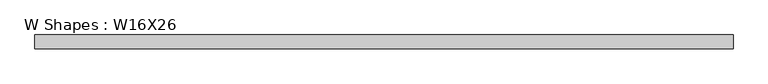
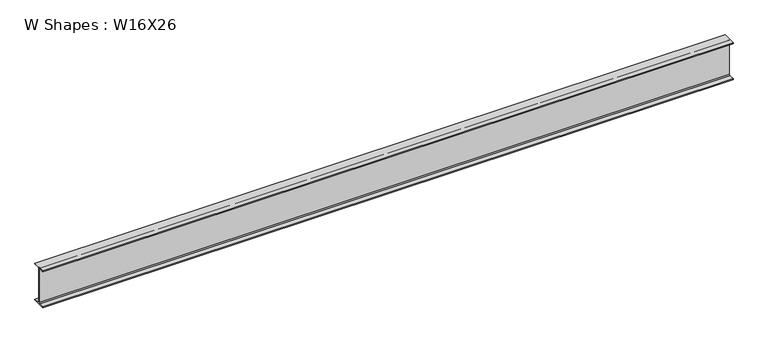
"""IFC4 building model written with IfcOpenShell, lengths in millimetres: beam geometry, W Shapes : W16X26."""

import ifcopenshell
import ifcopenshell.guid

model = None  # the IFC model being written
_history = None  # IfcOwnerHistory: only IFC2X3 demands one
_inside = {}  # id of a spatial element -> (the spatial element, [elements in it])
_under = {}  # id of a project, library or spatial element -> (it, [spatial elements below it])
_declared = {}  # id of a project -> (the project, [libraries it declares])
_typed = {}  # id of a type object -> (the type object, [elements of that type])
_made_of = {}  # id of a material, layer set ... -> (it, [elements and type objects made of it])


def new_model(schema):
    """Start an empty IFC model of exactly this schema.

    Asked for "IFC4X3", IfcOpenShell would pick the latest addendum, in which some entities
    have other attributes; the version numbers below select the first issue.
    IFC2X3 requires an IfcOwnerHistory on every rooted entity: one is made here for all.
    """
    global model, _history
    if schema == "IFC4X3":
        model = ifcopenshell.file(schema_version=(4, 3, 0, 0))
    else:
        model = ifcopenshell.file(schema=schema)
    _inside.clear()
    _under.clear()
    _declared.clear()
    _typed.clear()
    _made_of.clear()
    _history = None
    if model.schema == "IFC2X3":
        org = make("IfcOrganization", Name="unknown")
        user = make(
            "IfcPersonAndOrganization",
            ThePerson=make("IfcPerson", FamilyName="unknown"),
            TheOrganization=org,
        )
        app = make(
            "IfcApplication",
            ApplicationDeveloper=org,
            Version="unknown",
            ApplicationFullName="unknown",
            ApplicationIdentifier="unknown",
        )
        _history = make(
            "IfcOwnerHistory",
            OwningUser=user,
            OwningApplication=app,
            ChangeAction="ADDED",
            CreationDate=0,
        )
    return model


def make(cls, **values):
    """One entity of the class cls with the attributes given. An attribute that is None is left unset."""
    return model.create_entity(
        cls, **{name: value for name, value in values.items() if value is not None}
    )


def rooted(cls, **values):
    """An entity with a GlobalId (a new one), such as an element, a storey or a relation."""
    return make(cls, GlobalId=ifcopenshell.guid.new(), OwnerHistory=_history, **values)


def si_unit(unit_type, name, prefix=None):
    """IfcSIUnit, for example si_unit("LENGTHUNIT", "METRE", prefix="MILLI")."""
    return make("IfcSIUnit", UnitType=unit_type, Prefix=prefix, Name=name)


def assignment(units):
    """IfcUnitAssignment: the units of a project."""
    return None if units is None else make("IfcUnitAssignment", Units=units)


def point(xyz):
    """IfcCartesianPoint."""
    return None if xyz is None else make("IfcCartesianPoint", Coordinates=xyz)


def direction(xyz):
    """IfcDirection."""
    return None if xyz is None else make("IfcDirection", DirectionRatios=xyz)


def frame(location, z_axis=None, x_axis=None):
    """IfcAxis2Placement3D, a coordinate frame: its origin and axes. An axis left out is left unset."""
    return make(
        "IfcAxis2Placement3D",
        Location=point(location),
        Axis=direction(z_axis),
        RefDirection=direction(x_axis),
    )


def frame_2d(location, x_axis=None):
    """IfcAxis2Placement2D, a coordinate frame in the plane: its origin and x axis."""
    return make(
        "IfcAxis2Placement2D", Location=point(location), RefDirection=direction(x_axis)
    )


def origin():
    """The frame at (0, 0, 0) with its axes left unset."""
    return frame((0.0, 0.0, 0.0))


def place(relative_to, where):
    """IfcLocalPlacement: puts the frame where relative to a parent placement (None: the world)."""
    return make(
        "IfcLocalPlacement", PlacementRelTo=relative_to, RelativePlacement=where
    )


def context(
    kind, dimensions, precision=None, world=None, true_north=None, identifier=None
):
    """IfcGeometricRepresentationContext, for example the 3D "Model" context."""
    return make(
        "IfcGeometricRepresentationContext",
        ContextIdentifier=identifier,
        ContextType=kind,
        CoordinateSpaceDimension=dimensions,
        Precision=precision,
        WorldCoordinateSystem=world,
        TrueNorth=true_north,
    )


def project(units=None, contexts=None):
    """IfcProject with its units and contexts."""
    return rooted(
        "IfcProject",
        Name="project",
        RepresentationContexts=contexts,
        UnitsInContext=assignment(units),
    )


def spatial(cls, under=None, at=None, **own):
    """A site, building, storey or space (cls), placed at a placement, below another one or the project."""
    s = rooted(cls, ObjectPlacement=at, **own)
    if under is not None:
        _under.setdefault(under.id(), (under, []))[1].append(s)
    return s


def polyline(points):
    """IfcPolyline through the points."""
    return make("IfcPolyline", Points=[point(p) for p in points])


def circle_curve(where, radius):
    """IfcCircle in the frame where."""
    return make("IfcCircle", Position=where, Radius=radius)


def trimmed(basis, trim1, trim2, sense, master):
    """IfcTrimmedCurve: the piece of a basis curve between two trims."""
    return make(
        "IfcTrimmedCurve",
        BasisCurve=basis,
        Trim1=trim1,
        Trim2=trim2,
        SenseAgreement=sense,
        MasterRepresentation=master,
    )


def segment(curve, same_sense, transition):
    """IfcCompositeCurveSegment."""
    return make(
        "IfcCompositeCurveSegment",
        Transition=transition,
        SameSense=same_sense,
        ParentCurve=curve,
    )


def composite_curve(segments, self_intersect=None):
    """IfcCompositeCurve: segments joined end to end."""
    return make("IfcCompositeCurve", Segments=segments, SelfIntersect=self_intersect)


def outline(outer, holes=None, kind="AREA"):
    """IfcArbitraryClosedProfileDef: a profile drawn as a closed curve; with holes, ...WithVoids."""
    if holes is None:
        return make("IfcArbitraryClosedProfileDef", ProfileType=kind, OuterCurve=outer)
    return make(
        "IfcArbitraryProfileDefWithVoids",
        ProfileType=kind,
        OuterCurve=outer,
        InnerCurves=holes,
    )


def extrude(swept, where, along, depth):
    """IfcExtrudedAreaSolid: the profile swept, set in the frame where, extruded along a direction by depth."""
    return make(
        "IfcExtrudedAreaSolid",
        SweptArea=swept,
        Position=where,
        ExtrudedDirection=direction(along),
        Depth=depth,
    )


def shape(context_of_items, identifier, shape_type, items):
    """IfcShapeRepresentation: the items that make up one representation, for example the "Body"."""
    return make(
        "IfcShapeRepresentation",
        ContextOfItems=context_of_items,
        RepresentationIdentifier=identifier,
        RepresentationType=shape_type,
        Items=items,
    )


def source(mapping_origin, context_of_items, identifier, shape_type, items):
    """IfcRepresentationMap: a shape defined once, which mapped items show again and again."""
    return make(
        "IfcRepresentationMap",
        MappingOrigin=mapping_origin,
        MappedRepresentation=shape(context_of_items, identifier, shape_type, items),
    )


def transform(
    local_origin,
    x_axis=None,
    y_axis=None,
    z_axis=None,
    scale=None,
    scale2=None,
    scale3=None,
    uniform=True,
):
    """IfcCartesianTransformationOperator3D, or its non-uniform kind. x_axis, y_axis, z_axis: its Axis1, 2, 3."""
    if uniform:
        return make(
            "IfcCartesianTransformationOperator3D",
            Axis1=direction(x_axis),
            Axis2=direction(y_axis),
            LocalOrigin=point(local_origin),
            Scale=scale,
            Axis3=direction(z_axis),
        )
    return make(
        "IfcCartesianTransformationOperator3DnonUniform",
        Axis1=direction(x_axis),
        Axis2=direction(y_axis),
        LocalOrigin=point(local_origin),
        Scale=scale,
        Axis3=direction(z_axis),
        Scale2=scale2,
        Scale3=scale3,
    )


def mapped(mapping_source, mapping_target):
    """IfcMappedItem: shows the shape of a source again, moved by a transform."""
    return make(
        "IfcMappedItem", MappingSource=mapping_source, MappingTarget=mapping_target
    )


def made_of(thing, what):
    """Note that an element or type object is made of a material, layer set ...; save() writes the relation."""
    if what is not None:
        _made_of.setdefault(what.id(), (what, []))[1].append(thing)
    return thing


def element(
    cls,
    number,
    at=None,
    inside=None,
    cuts=None,
    type_object=None,
    material=None,
    context=None,
    identifier="Body",
    shape_type=None,
    held_by="IfcProductDefinitionShape",
    body=None,
    shapes=None,
    **own,
):
    """One element of the class cls, such as IfcWall. Its Tag is "e" and its number.

    at: its placement. inside: the storey or other place that contains it. cuts: it is an
    opening in that element (IfcRelVoidsElement). A single representation is given by context,
    identifier, shape_type and body (its items); several are given by shapes. held_by: the class
    of the entity that holds the representations. save() writes the other relations.
    """
    e = rooted(cls, Tag="e%d" % number, ObjectPlacement=at, **own)
    if body is not None:
        shapes = [shape(context, identifier, shape_type, body)]
    if shapes is not None:
        e.Representation = make(held_by, Representations=shapes)
    if inside is not None:
        _inside.setdefault(inside.id(), (inside, []))[1].append(e)
    if cuts is not None:
        rooted(
            "IfcRelVoidsElement", RelatingBuildingElement=cuts, RelatedOpeningElement=e
        )
    if type_object is not None:
        _typed.setdefault(type_object.id(), (type_object, []))[1].append(e)
    return made_of(e, material)


def aggregate(whole, parts):
    """IfcRelAggregates: a whole, such as a stair, and the parts it consists of."""
    return rooted("IfcRelAggregates", RelatingObject=whole, RelatedObjects=parts)


def save(model, path):
    """Write the relations noted so far, then the file.

    IfcRelAggregates (storeys below a building ...), IfcRelContainedInSpatialStructure (elements
    in a storey), IfcRelDefinesByType, IfcRelAssociatesMaterial and IfcRelDeclares: one each for
    every whole, place, type object, material and project.
    """
    for whole, parts in _under.values():
        aggregate(whole, parts)
    for where, things in _inside.values():
        rooted(
            "IfcRelContainedInSpatialStructure",
            RelatedElements=things,
            RelatingStructure=where,
        )
    for kind, things in _typed.values():
        rooted("IfcRelDefinesByType", RelatedObjects=things, RelatingType=kind)
    for what, things in _made_of.values():
        rooted("IfcRelAssociatesMaterial", RelatedObjects=things, RelatingMaterial=what)
    for by, libraries in _declared.values():
        rooted("IfcRelDeclares", RelatingContext=by, RelatedDefinitions=libraries)
    model.write(path)


def w_shapes_w16x26_bcd4aa5d(model_context):
    return source(origin(), model_context, "Body", "SweptSolid", [
        extrude(outline(composite_curve([segment(polyline([(69.85, -190.627), (69.85, -199.39), (-69.85, -199.39), (-69.85, -190.627), (-13.3858, -190.627)]), True, "CONTINUOUS"), segment(trimmed(circle_curve(frame_2d((-13.3858, -180.4162)), 10.2108), [point((-13.3858, -190.627))], [point((-3.175, -180.4162))], True, "CARTESIAN"), True, "CONTINUOUS"), segment(polyline([(-3.175, -180.4162), (-3.175, 180.4162)]), True, "CONTINUOUS"), segment(trimmed(circle_curve(frame_2d((-13.3858, 180.4162)), 10.2108), [point((-3.175, 180.4162))], [point((-13.3858, 190.627))], True, "CARTESIAN"), True, "CONTINUOUS"), segment(polyline([(-13.3858, 190.627), (-69.85, 190.627), (-69.85, 199.39), (69.85, 199.39), (69.85, 190.627), (13.3858, 190.627)]), True, "CONTINUOUS"), segment(trimmed(circle_curve(frame_2d((13.3858, 180.4162)), 10.2108), [point((13.3858, 190.627))], [point((3.175, 180.4162))], True, "CARTESIAN"), True, "CONTINUOUS"), segment(polyline([(3.175, 180.4162), (3.175, -180.4162)]), True, "CONTINUOUS"), segment(trimmed(circle_curve(frame_2d((13.3858, -180.4162)), 10.2108), [point((3.175, -180.4162))], [point((13.3858, -190.627))], True, "CARTESIAN"), True, "CONTINUOUS"), segment(polyline([(13.3858, -190.627), (69.85, -190.627)]), True, "CONTINUOUS")], self_intersect=False)), frame((-3584.829, 0.0, 0.0), z_axis=(1.0, 0.0, 0.0), x_axis=(0.0, 1.0, 0.0)), (0.0, 0.0, 1.0), 7052.8323827),
    ])


if __name__ == "__main__":
    model = new_model("IFC4")
    model_context = context("Model", 3, world=origin())
    ifc_project = project(units=[si_unit("LENGTHUNIT", "METRE", prefix="MILLI")], contexts=[model_context])
    site = spatial("IfcSite", under=ifc_project)
    building = spatial("IfcBuilding", under=site)
    placement = place(None, origin())
    w_shapes_w16x26_shape = w_shapes_w16x26_bcd4aa5d(model_context)
    element("IfcBeam", 1, ObjectType="W Shapes : W16X26", at=placement, inside=building, context=model_context, shape_type="MappedRepresentation", body=[
        mapped(w_shapes_w16x26_shape, transform((0.0, 0.0, 0.0), x_axis=(1.0, 0.0, 0.0), y_axis=(0.0, 1.0, 0.0), z_axis=(0.0, 0.0, 1.0))),
    ])
    save(model, "model.ifc")
